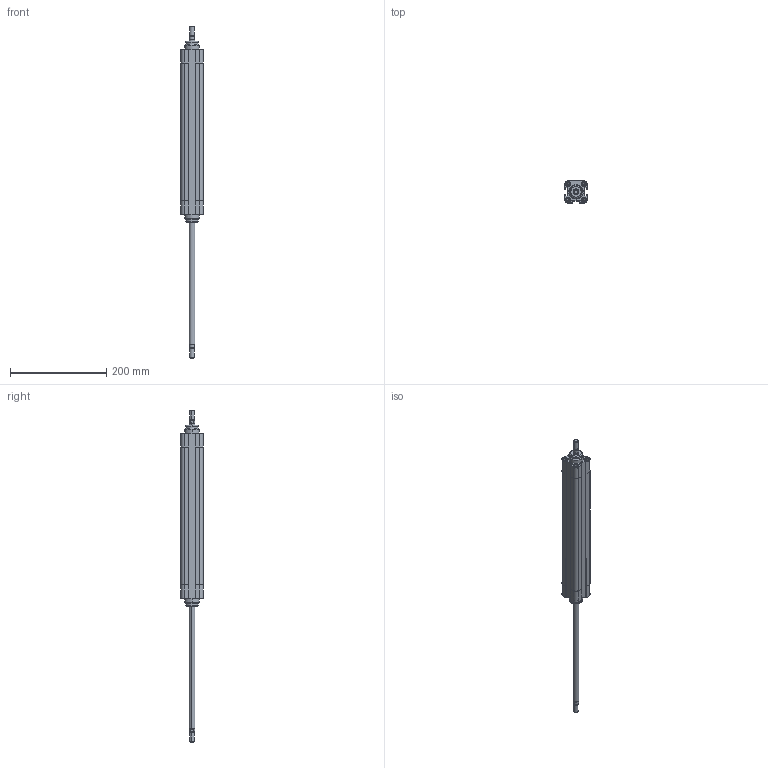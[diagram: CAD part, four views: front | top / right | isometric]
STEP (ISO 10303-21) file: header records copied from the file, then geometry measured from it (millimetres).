
FILE_DESCRIPTION((''),'2;1');
FILE_NAME('F:\Lib-3d\1380\CIL\1380_32_0250_02.stp','2004-01-07T15:59:40',('maffial1'),(''),'Autodesk Inventor 8','Autodesk Inventor 8','');
FILE_SCHEMA(('AUTOMOTIVE_DESIGN { 1 0 10303 214 1 1 1 1 }'));
Length unit declared in the file: millimetre
Products named in the file (3): 1380_32_0250_02; CPP04_32_250; CPP03_32_250
Assembly tree (2 placements, depth 2):
  1380_32_0250_02
    CPP04_32_250
    CPP03_32_250
Bounding box: 46 x 46 x 690 mm (x, y, z)
Volume: 689354.9 mm3; surface area: 128139.4 mm2
Topology: 2 solids, 2 shells, 236 faces, 564 edges, 356 vertices
Faces by surface type: plane 80, cylinder 66, bspline 62, cone 24, torus 4
Entity records: 7513 total; most frequent: CARTESIAN_POINT 2031, DIRECTION 1154, ORIENTED_EDGE 1096, EDGE_CURVE 548, AXIS2_PLACEMENT_3D 427, VERTEX_POINT 356, VECTOR 300, LINE 300
